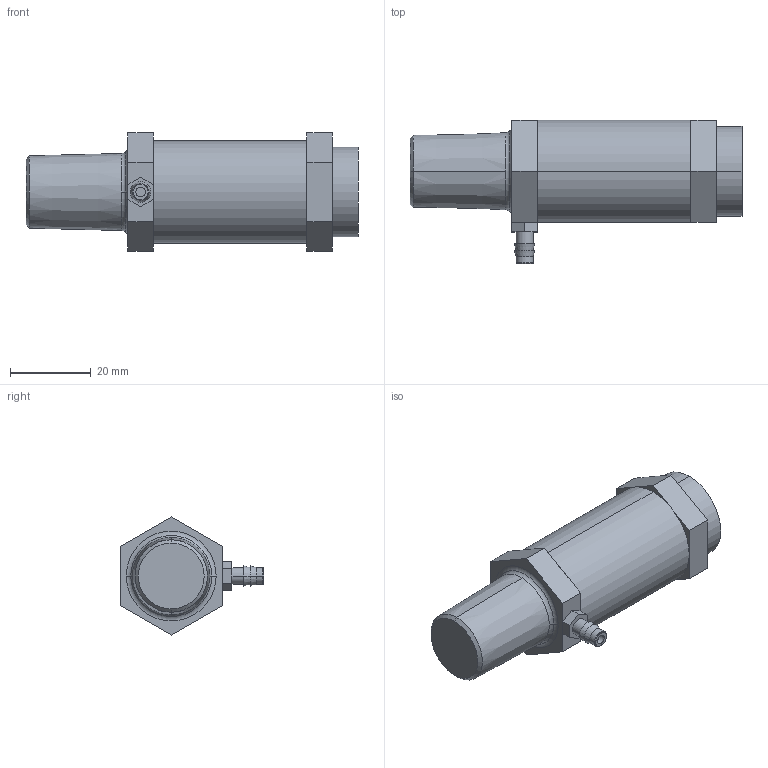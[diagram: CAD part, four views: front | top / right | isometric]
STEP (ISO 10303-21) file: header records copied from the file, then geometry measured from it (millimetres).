
FILE_DESCRIPTION((''),'2;1');
FILE_NAME('UD2_ASM','2017-08-24T',('jennifer.elliott'),('CenterLine (Windsor) Ltd - Automation Components Division'),'PRO/ENGINEER BY PARAMETRIC TECHNOLOGY CORPORATION, 2015030','PRO/ENGINEER BY PARAMETRIC TECHNOLOGY CORPORATION, 2015030','');
FILE_SCHEMA(('AUTOMOTIVE_DESIGN { 1 0 10303 214 1 1 1 1 }'));
Length unit declared in the file: inch
Products named in the file (6): PRT0082; PRT0083; PRT0084; PRT0085; PRT0086; UD2_ASM
Assembly tree (5 placements, depth 2):
  UD2_ASM
    PRT0082
    PRT0083
    PRT0084
    PRT0085
    PRT0086
Bounding box: 82.42 x 35.71 x 29.33 mm (x, y, z)
Volume: 35885.2 mm3; surface area: 10312.1 mm2
Topology: 5 solids, 5 shells, 58 faces, 123 edges, 79 vertices
Faces by surface type: plane 32, cylinder 10, torus 8, cone 8
Entity records: 1948 total; most frequent: DIRECTION 312, CARTESIAN_POINT 287, ORIENTED_EDGE 246, EDGE_CURVE 123, AXIS2_PLACEMENT_3D 120, VERTEX_POINT 79, VECTOR 72, LINE 72
